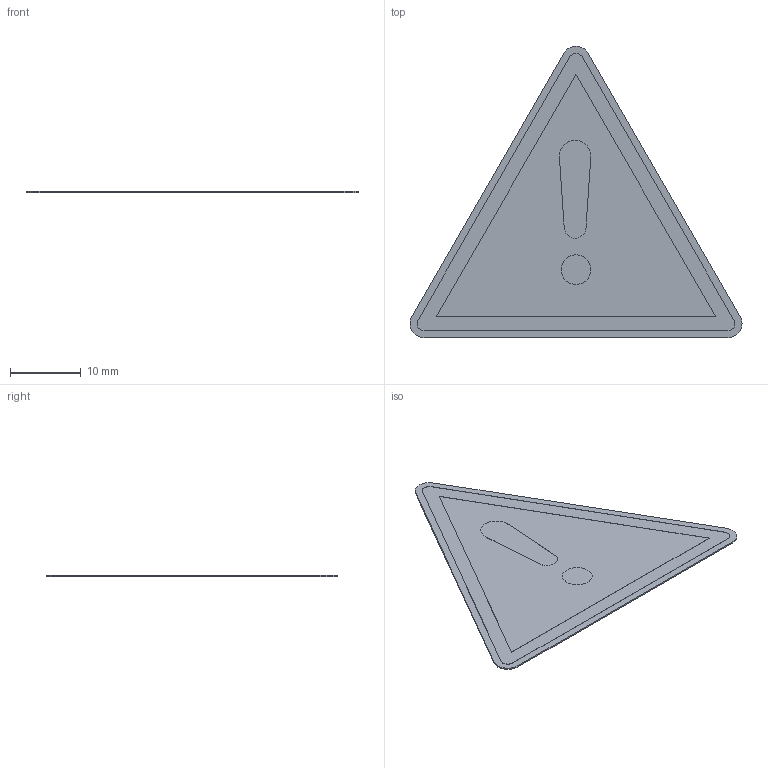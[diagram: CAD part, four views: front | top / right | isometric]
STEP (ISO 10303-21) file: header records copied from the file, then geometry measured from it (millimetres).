
FILE_DESCRIPTION (( 'STEP AP214' ), '1' );
FILE_NAME ('W001_Allgemeines Warnzeichen.STEP', '2022-02-22T08:06:26', ( '' ), ( '' ), 'SwSTEP 2.0', 'SolidWorks 2021', '' );
FILE_SCHEMA (( 'AUTOMOTIVE_DESIGN' ));
Length unit declared in the file: millimetre
Products named in the file (1): W001_Allgemeines Warnzeichen
Bounding box: 47.07 x 41.3 x 0.22 mm (x, y, z)
Volume: 220.6 mm3; surface area: 2182.5 mm2
Topology: 1 solids, 1 shells, 31 faces, 75 edges, 50 vertices
Faces by surface type: plane 17, cylinder 14
Entity records: 1182 total; most frequent: DIRECTION 167, CARTESIAN_POINT 157, ORIENTED_EDGE 150, EDGE_CURVE 75, AXIS2_PLACEMENT_3D 60, VERTEX_POINT 50, VECTOR 47, LINE 47
